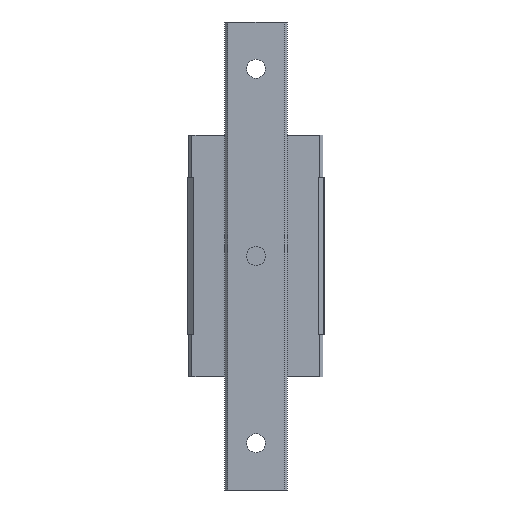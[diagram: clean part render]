
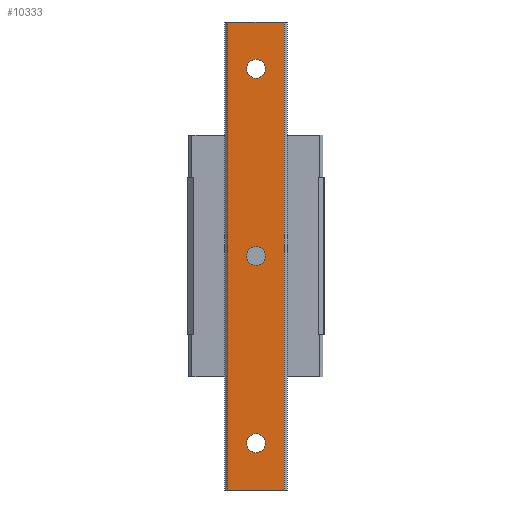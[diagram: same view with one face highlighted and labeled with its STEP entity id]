
A CAD part, front view. The second image highlights one B-rep face of the part: STEP entity #10333.
In plain terms, the highlighted planar face has unit normal (0, -1, 0).
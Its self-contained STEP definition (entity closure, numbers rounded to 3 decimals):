
#200 = ORIENTED_EDGE ( 'NONE', *, *, #12438, .T. ) ;
#205 = VERTEX_POINT ( 'NONE', #9590 ) ;
#210 = DIRECTION ( 'NONE',  ( 0., 1., 0. ) ) ;
#435 = CARTESIAN_POINT ( 'NONE',  ( 0., -17.5, 63. ) ) ;
#450 = DIRECTION ( 'NONE',  ( 0., 0., 1. ) ) ;
#636 = EDGE_LOOP ( 'NONE', ( #9196, #6059 ) ) ;
#1279 = CIRCLE ( 'NONE', #2150, 3. ) ;
#1390 = DIRECTION ( 'NONE',  ( -1., 0., 0. ) ) ;
#1525 = EDGE_CURVE ( 'NONE', #1763, #7244, #8865, .T. ) ;
#1538 = AXIS2_PLACEMENT_3D ( 'NONE', #12944, #3462, #2278 ) ;
#1763 = VERTEX_POINT ( 'NONE', #3786 ) ;
#2047 = VERTEX_POINT ( 'NONE', #5126 ) ;
#2150 = AXIS2_PLACEMENT_3D ( 'NONE', #8520, #10720, #5308 ) ;
#2209 = VERTEX_POINT ( 'NONE', #9208 ) ;
#2244 = CARTESIAN_POINT ( 'NONE',  ( 0., -17.5, -63. ) ) ;
#2278 = DIRECTION ( 'NONE',  ( 0., 0., 1. ) ) ;
#2422 = CIRCLE ( 'NONE', #1538, 3. ) ;
#2458 = EDGE_CURVE ( 'NONE', #2209, #9311, #3606, .T. ) ;
#2471 = EDGE_LOOP ( 'NONE', ( #8736, #4760 ) ) ;
#3110 = CARTESIAN_POINT ( 'NONE',  ( -9., -17.5, -75. ) ) ;
#3123 = ORIENTED_EDGE ( 'NONE', *, *, #8571, .T. ) ;
#3131 = AXIS2_PLACEMENT_3D ( 'NONE', #9897, #12387, #4948 ) ;
#3379 = DIRECTION ( 'NONE',  ( 0., 0., 1. ) ) ;
#3462 = DIRECTION ( 'NONE',  ( 0., 1., 0. ) ) ;
#3606 = LINE ( 'NONE', #3672, #9735 ) ;
#3672 = CARTESIAN_POINT ( 'NONE',  ( -9., -17.5, 75. ) ) ;
#3742 = LINE ( 'NONE', #10027, #10373 ) ;
#3752 = LINE ( 'NONE', #12954, #4548 ) ;
#3786 = CARTESIAN_POINT ( 'NONE',  ( 0., -17.5, -57. ) ) ;
#4081 = DIRECTION ( 'NONE',  ( 0., 1., 0. ) ) ;
#4221 = CIRCLE ( 'NONE', #3131, 3. ) ;
#4372 = CARTESIAN_POINT ( 'NONE',  ( 0., -17.5, 0. ) ) ;
#4411 = EDGE_LOOP ( 'NONE', ( #8311, #13456 ) ) ;
#4548 = VECTOR ( 'NONE', #7785, 1000. ) ;
#4610 = LINE ( 'NONE', #11068, #12917 ) ;
#4760 = ORIENTED_EDGE ( 'NONE', *, *, #10048, .T. ) ;
#4948 = DIRECTION ( 'NONE',  ( 0., 0., 1. ) ) ;
#5023 = VERTEX_POINT ( 'NONE', #435 ) ;
#5126 = CARTESIAN_POINT ( 'NONE',  ( 0., -17.5, 3. ) ) ;
#5158 = FACE_OUTER_BOUND ( 'NONE', #8914, .T. ) ;
#5308 = DIRECTION ( 'NONE',  ( 0., 0., 1. ) ) ;
#5356 = FACE_BOUND ( 'NONE', #2471, .T. ) ;
#5377 = CARTESIAN_POINT ( 'NONE',  ( -9., -17.5, 75. ) ) ;
#5883 = CARTESIAN_POINT ( 'NONE',  ( -9., -17.5, -75. ) ) ;
#5989 = EDGE_CURVE ( 'NONE', #5023, #8483, #4221, .T. ) ;
#6059 = ORIENTED_EDGE ( 'NONE', *, *, #13263, .T. ) ;
#6218 = DIRECTION ( 'NONE',  ( 0., 0., 1. ) ) ;
#6625 = DIRECTION ( 'NONE',  ( 1., 0., 0. ) ) ;
#6654 = DIRECTION ( 'NONE',  ( 0., 1., 0. ) ) ;
#6852 = AXIS2_PLACEMENT_3D ( 'NONE', #9483, #4081, #6218 ) ;
#7244 = VERTEX_POINT ( 'NONE', #2244 ) ;
#7327 = DIRECTION ( 'NONE',  ( 0., -1., 0. ) ) ;
#7334 = CARTESIAN_POINT ( 'NONE',  ( 0., -17.5, -60. ) ) ;
#7750 = VERTEX_POINT ( 'NONE', #5883 ) ;
#7785 = DIRECTION ( 'NONE',  ( 0., 0., -1. ) ) ;
#7967 = DIRECTION ( 'NONE',  ( 0., 0., 1. ) ) ;
#8311 = ORIENTED_EDGE ( 'NONE', *, *, #5989, .T. ) ;
#8483 = VERTEX_POINT ( 'NONE', #10602 ) ;
#8520 = CARTESIAN_POINT ( 'NONE',  ( 0., -17.5, 0. ) ) ;
#8571 = EDGE_CURVE ( 'NONE', #9311, #7750, #3752, .T. ) ;
#8581 = PLANE ( 'NONE',  #10780 ) ;
#8736 = ORIENTED_EDGE ( 'NONE', *, *, #13399, .T. ) ;
#8865 = CIRCLE ( 'NONE', #9751, 3. ) ;
#8914 = EDGE_LOOP ( 'NONE', ( #13543, #9084, #3123, #200 ) ) ;
#9084 = ORIENTED_EDGE ( 'NONE', *, *, #2458, .T. ) ;
#9196 = ORIENTED_EDGE ( 'NONE', *, *, #1525, .T. ) ;
#9208 = CARTESIAN_POINT ( 'NONE',  ( 9., -17.5, 75. ) ) ;
#9289 = CIRCLE ( 'NONE', #6852, 3. ) ;
#9311 = VERTEX_POINT ( 'NONE', #5377 ) ;
#9393 = FACE_BOUND ( 'NONE', #636, .T. ) ;
#9483 = CARTESIAN_POINT ( 'NONE',  ( 0., -17.5, -60. ) ) ;
#9590 = CARTESIAN_POINT ( 'NONE',  ( 9., -17.5, -75. ) ) ;
#9601 = CARTESIAN_POINT ( 'NONE',  ( 0., -17.5, -3. ) ) ;
#9735 = VECTOR ( 'NONE', #1390, 1000. ) ;
#9751 = AXIS2_PLACEMENT_3D ( 'NONE', #7334, #210, #3379 ) ;
#9897 = CARTESIAN_POINT ( 'NONE',  ( 0., -17.5, 60. ) ) ;
#10027 = CARTESIAN_POINT ( 'NONE',  ( -9., -17.5, -75. ) ) ;
#10048 = EDGE_CURVE ( 'NONE', #13129, #2047, #12326, .T. ) ;
#10333 = ADVANCED_FACE ( 'NONE', ( #9393, #11491, #5356, #5158 ), #8581, .T. ) ;
#10373 = VECTOR ( 'NONE', #6625, 1000. ) ;
#10602 = CARTESIAN_POINT ( 'NONE',  ( 0., -17.5, 57. ) ) ;
#10704 = DIRECTION ( 'NONE',  ( 0., 0., -1. ) ) ;
#10720 = DIRECTION ( 'NONE',  ( 0., 1., 0. ) ) ;
#10780 = AXIS2_PLACEMENT_3D ( 'NONE', #3110, #7327, #10704 ) ;
#11068 = CARTESIAN_POINT ( 'NONE',  ( 9., -17.5, -75. ) ) ;
#11216 = EDGE_CURVE ( 'NONE', #205, #2209, #4610, .T. ) ;
#11491 = FACE_BOUND ( 'NONE', #4411, .T. ) ;
#12326 = CIRCLE ( 'NONE', #12763, 3. ) ;
#12387 = DIRECTION ( 'NONE',  ( 0., 1., 0. ) ) ;
#12438 = EDGE_CURVE ( 'NONE', #7750, #205, #3742, .T. ) ;
#12736 = EDGE_CURVE ( 'NONE', #8483, #5023, #2422, .T. ) ;
#12763 = AXIS2_PLACEMENT_3D ( 'NONE', #4372, #6654, #450 ) ;
#12917 = VECTOR ( 'NONE', #7967, 1000. ) ;
#12944 = CARTESIAN_POINT ( 'NONE',  ( 0., -17.5, 60. ) ) ;
#12954 = CARTESIAN_POINT ( 'NONE',  ( -9., -17.5, -75. ) ) ;
#13129 = VERTEX_POINT ( 'NONE', #9601 ) ;
#13263 = EDGE_CURVE ( 'NONE', #7244, #1763, #9289, .T. ) ;
#13399 = EDGE_CURVE ( 'NONE', #2047, #13129, #1279, .T. ) ;
#13456 = ORIENTED_EDGE ( 'NONE', *, *, #12736, .T. ) ;
#13543 = ORIENTED_EDGE ( 'NONE', *, *, #11216, .T. ) ;
